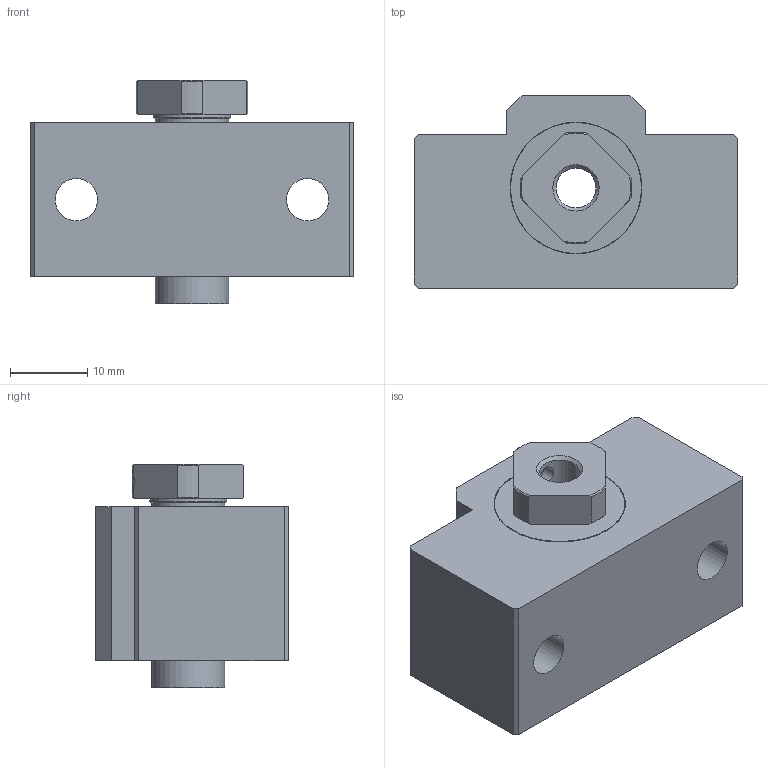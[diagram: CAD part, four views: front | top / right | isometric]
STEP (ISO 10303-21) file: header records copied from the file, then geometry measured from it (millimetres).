
FILE_DESCRIPTION(/* description */ ('STEP AP214'),/* implementation_level */ '2;1');
FILE_NAME(/* name */ 'EK6______CAD_NO_Yes',/* time_stamp */ '2026-09-17T12:52:05+02:00',/* author */ ('License CC BY-ND 4.0'),/* organization */ ('CADENAS'),/* preprocessor_version */ 'ST-DEVELOPER v20',/* originating_system */ 'PARTsolutions',/* authorisation */ ' ');
FILE_SCHEMA (('AUTOMOTIVE_DESIGN {1 0 10303 214 3 1 1}'));
Length unit declared in the file: millimetre
Products named in the file (4): EK6______CAD_NO_Yes; EK 6; EK 6collar; RN 6
Assembly tree (4 placements, depth 2):
  EK6______CAD_NO_Yes
    EK 6
    EK 6collar  x2
    RN 6
Bounding box: 42 x 25 x 29 mm (x, y, z)
Volume: 16665.2 mm3; surface area: 7159.3 mm2
Topology: 4 solids, 4 shells, 80 faces, 181 edges, 120 vertices
Faces by surface type: plane 44, cylinder 24, cone 12
Full cylindrical faces by diameter (mm): 2.459 x1, 3 x1, 5.188 x1, 5.5 x2, 6 x3, 9.5 x6, 10 x1, 17 x2, 17.1 x2
Entity records: 2183 total; most frequent: CARTESIAN_POINT 412, DIRECTION 348, ORIENTED_EDGE 302, EDGE_CURVE 151, AXIS2_PLACEMENT_3D 135, EDGE_LOOP 118, FACE_BOUND 118, VERTEX_POINT 113
